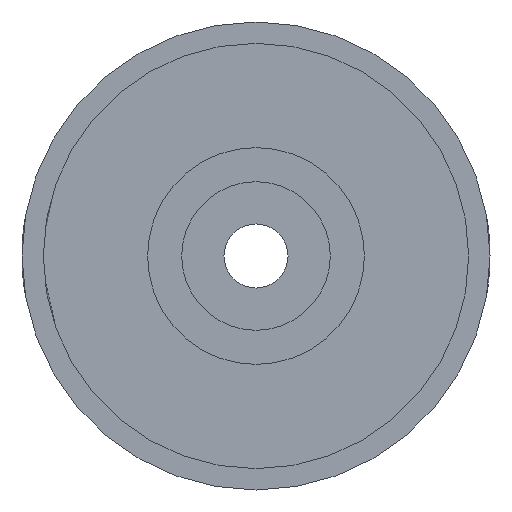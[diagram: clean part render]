
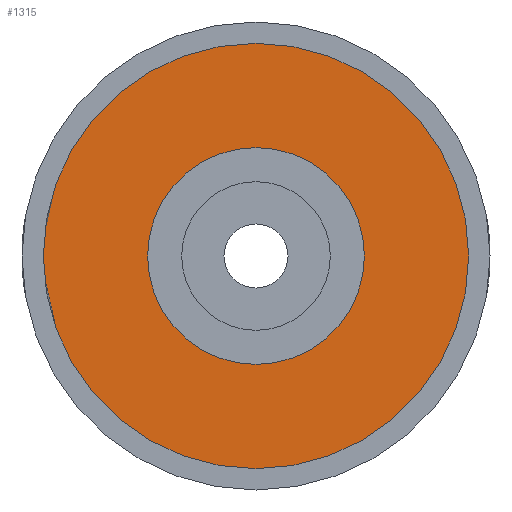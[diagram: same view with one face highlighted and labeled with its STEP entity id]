
A CAD part, front view. The second image highlights one B-rep face of the part: STEP entity #1315.
In plain terms, the highlighted planar face has unit normal (0, -1, 0).
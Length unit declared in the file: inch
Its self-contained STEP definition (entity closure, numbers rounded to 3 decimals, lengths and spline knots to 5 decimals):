
#45 = CARTESIAN_POINT ( 'NONE',  ( 0., 0.375, 0. ) ) ;
#71 = CARTESIAN_POINT ( 'NONE',  ( 0., 0.375, -0.624 ) ) ;
#98 = EDGE_CURVE ( 'NONE', #2260, #4052, #222, .T. ) ;
#190 = EDGE_CURVE ( 'NONE', #675, #2260, #3051, .T. ) ;
#222 = CIRCLE ( 'NONE', #2264, 0.624 ) ;
#309 = DIRECTION ( 'NONE',  ( 0., 0., -1. ) ) ;
#317 = CARTESIAN_POINT ( 'NONE',  ( 0., 0.375, 0. ) ) ;
#322 = CARTESIAN_POINT ( 'NONE',  ( 0., 0.375, 0. ) ) ;
#407 = DIRECTION ( 'NONE',  ( 0., 0., -1. ) ) ;
#453 = VERTEX_POINT ( 'NONE', #2027 ) ;
#511 = ORIENTED_EDGE ( 'NONE', *, *, #581, .T. ) ;
#581 = EDGE_CURVE ( 'NONE', #453, #3487, #4289, .T. ) ;
#650 = CARTESIAN_POINT ( 'NONE',  ( -0.624, 0.375, 0. ) ) ;
#666 = CARTESIAN_POINT ( 'NONE',  ( 0., 0.375, 0. ) ) ;
#675 = VERTEX_POINT ( 'NONE', #1391 ) ;
#679 = DIRECTION ( 'NONE',  ( 0., 0., 1. ) ) ;
#685 = EDGE_LOOP ( 'NONE', ( #3039, #2666, #1768 ) ) ;
#717 = AXIS2_PLACEMENT_3D ( 'NONE', #45, #2521, #407 ) ;
#784 = CARTESIAN_POINT ( 'NONE',  ( 0., 0.375, 0. ) ) ;
#798 = CIRCLE ( 'NONE', #3174, 0.318 ) ;
#1145 = DIRECTION ( 'NONE',  ( 0., 0., 1. ) ) ;
#1315 = ADVANCED_FACE ( 'NONE', ( #2968, #3864 ), #3159, .T. ) ;
#1381 = DIRECTION ( 'NONE',  ( 0., 0., -1. ) ) ;
#1391 = CARTESIAN_POINT ( 'NONE',  ( 0., 0.375, 0.624 ) ) ;
#1604 = EDGE_CURVE ( 'NONE', #3487, #453, #798, .T. ) ;
#1617 = CIRCLE ( 'NONE', #717, 0.624 ) ;
#1768 = ORIENTED_EDGE ( 'NONE', *, *, #190, .T. ) ;
#1809 = ORIENTED_EDGE ( 'NONE', *, *, #1604, .T. ) ;
#1930 = DIRECTION ( 'NONE',  ( 0., -1., 0. ) ) ;
#2027 = CARTESIAN_POINT ( 'NONE',  ( 0., 0.375, -0.318 ) ) ;
#2200 = AXIS2_PLACEMENT_3D ( 'NONE', #322, #3520, #1381 ) ;
#2260 = VERTEX_POINT ( 'NONE', #650 ) ;
#2264 = AXIS2_PLACEMENT_3D ( 'NONE', #666, #2783, #309 ) ;
#2521 = DIRECTION ( 'NONE',  ( 0., -1., 0. ) ) ;
#2666 = ORIENTED_EDGE ( 'NONE', *, *, #4338, .T. ) ;
#2753 = CARTESIAN_POINT ( 'NONE',  ( 0., 0.375, 0.318 ) ) ;
#2783 = DIRECTION ( 'NONE',  ( 0., -1., 0. ) ) ;
#2795 = DIRECTION ( 'NONE',  ( 0., 1., 0. ) ) ;
#2908 = AXIS2_PLACEMENT_3D ( 'NONE', #317, #2795, #679 ) ;
#2968 = FACE_OUTER_BOUND ( 'NONE', #685, .T. ) ;
#2989 = AXIS2_PLACEMENT_3D ( 'NONE', #4079, #1930, #4445 ) ;
#3039 = ORIENTED_EDGE ( 'NONE', *, *, #98, .T. ) ;
#3051 = CIRCLE ( 'NONE', #2989, 0.624 ) ;
#3159 = PLANE ( 'NONE',  #2200 ) ;
#3174 = AXIS2_PLACEMENT_3D ( 'NONE', #784, #3271, #1145 ) ;
#3271 = DIRECTION ( 'NONE',  ( 0., 1., 0. ) ) ;
#3487 = VERTEX_POINT ( 'NONE', #2753 ) ;
#3520 = DIRECTION ( 'NONE',  ( 0., -1., 0. ) ) ;
#3864 = FACE_BOUND ( 'NONE', #4027, .T. ) ;
#4027 = EDGE_LOOP ( 'NONE', ( #1809, #511 ) ) ;
#4052 = VERTEX_POINT ( 'NONE', #71 ) ;
#4079 = CARTESIAN_POINT ( 'NONE',  ( 0., 0.375, 0. ) ) ;
#4289 = CIRCLE ( 'NONE', #2908, 0.318 ) ;
#4338 = EDGE_CURVE ( 'NONE', #4052, #675, #1617, .T. ) ;
#4445 = DIRECTION ( 'NONE',  ( 0., 0., -1. ) ) ;
